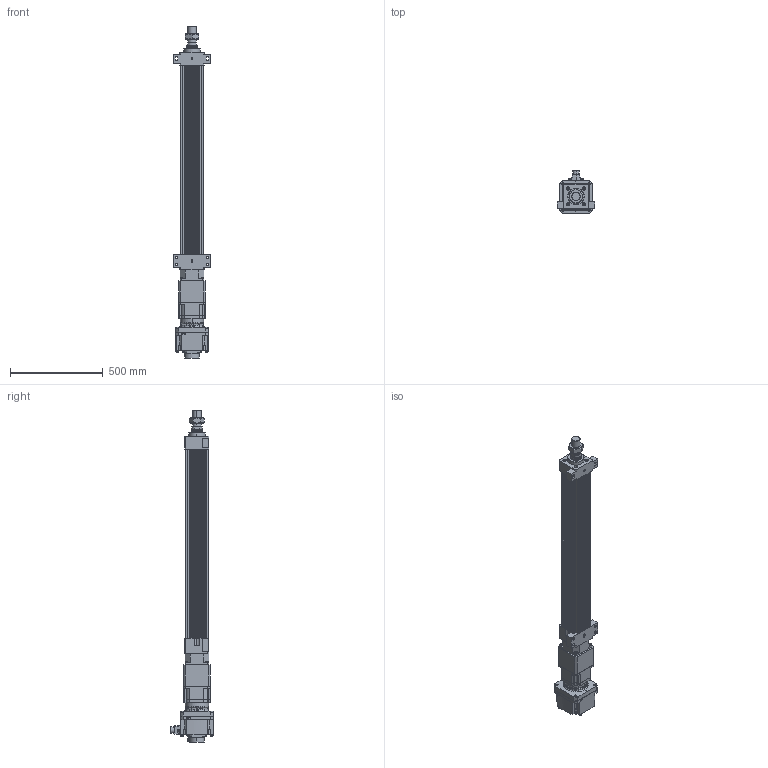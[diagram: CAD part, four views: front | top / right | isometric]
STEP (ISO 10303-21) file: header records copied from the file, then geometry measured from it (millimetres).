
FILE_DESCRIPTION (( 'STEP AP203' ), '1' );
FILE_NAME ('HES130FS(HS)-S800-W020G00-M-FFB.STEP', '2023-01-30T12:55:36', ( 'tms' ), ( '' ), 'SwSTEP 2.0', 'SolidWorks 2013', '' );
FILE_SCHEMA (( 'CONFIG_CONTROL_DESIGN' ));
Length unit declared in the file: millimetre
Products named in the file (9): AB142-003[HG-SR352]; AB1421; HG-SR202; P0403500801; HES130-S800-G142-FFB; P1301500001; HES130 ROD M ST800; M45X1.5P; HES130FS(HS)-S800-W020G00-M-FFB
Assembly tree (8 placements, depth 3):
  HES130FS(HS)-S800-W020G00-M-FFB
    HES130-S800-G142-FFB
    HES130 ROD M ST800
    M45X1.5P
    AB142-003[HG-SR352]
      AB1421
      P1301500001
      P0403500801
    HG-SR202
Bounding box: 200 x 228.85 x 1787.5 mm (x, y, z)
Volume: 15631103.4 mm3; surface area: 2078045.5 mm2
Topology: 4 solids, 22 shells, 1518 faces, 3922 edges, 2545 vertices
Faces by surface type: cylinder 676, plane 600, cone 160, bspline 76, torus 6
Entity records: 55270 total; most frequent: CARTESIAN_POINT 16778, DIRECTION 8032, ORIENTED_EDGE 7750, EDGE_CURVE 3897, AXIS2_PLACEMENT_3D 3016, VERTEX_POINT 2545, LINE 2000, VECTOR 2000
